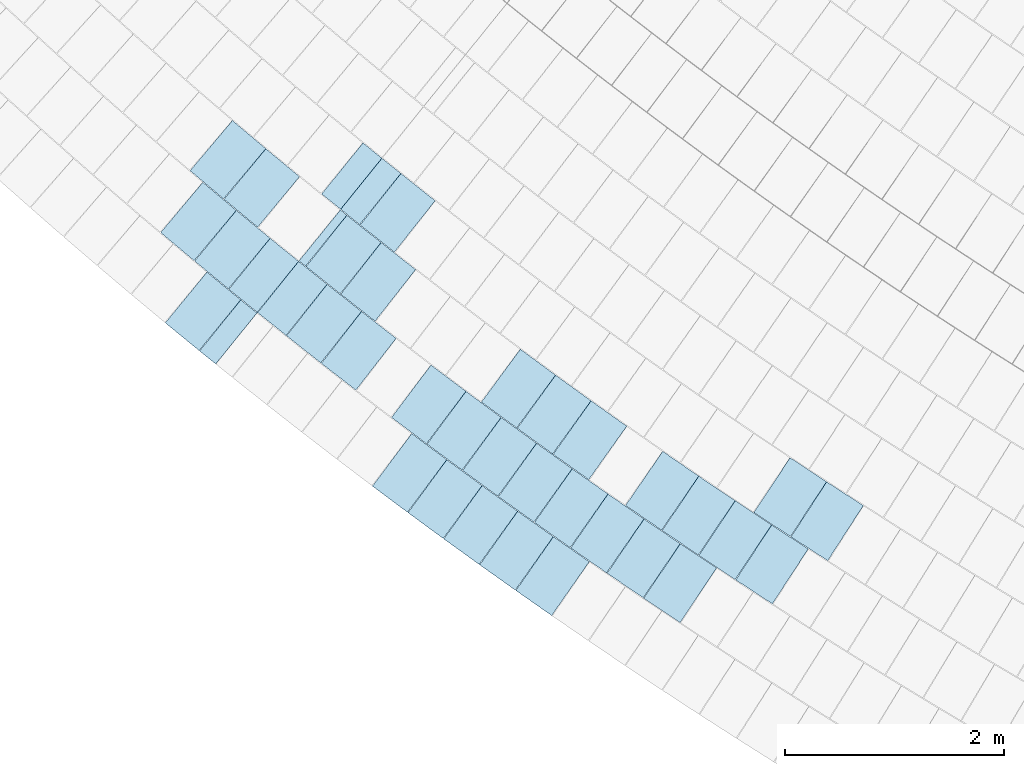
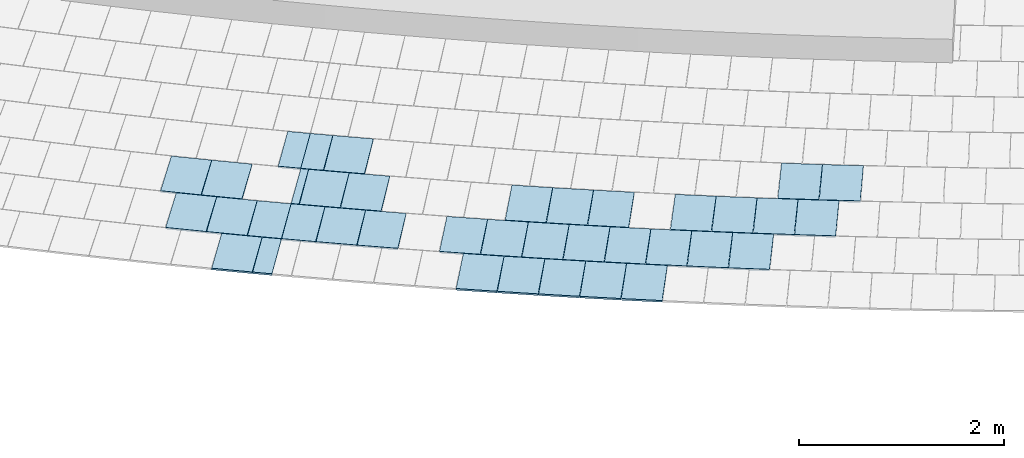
# One storey, part 93 of 438: 38 slabs.
"""IFC2X3 building model written with IfcOpenShell, lengths in millimetres."""

from ifc_helpers import new_model, entity, si_unit, converted_unit, derived_unit, direction, frame, origin, origin_2d_with_axis, place, context, subcontext, project, spatial, polyline, rectangle, outline, extrude, material, layer, layer_set, layer_usage, type_object, element, save


model = new_model("IFC2X3")

# Units and contexts
model_context = context("Model", 3, precision=0.01, world=origin(), true_north=direction((6.123031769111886e-17, 1.0)))
body_context = subcontext(model_context, "Body", "Model", "MODEL_VIEW")
ifc_project = project(units=[si_unit("LENGTHUNIT", "METRE", prefix="MILLI"), si_unit("AREAUNIT", "SQUARE_METRE"), si_unit("VOLUMEUNIT", "CUBIC_METRE"), converted_unit("PLANEANGLEUNIT", "DEGREE", entity("IfcRatioMeasure", 0.017453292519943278), si_unit("PLANEANGLEUNIT", "RADIAN"), dimensions=[0, 0, 0, 0, 0, 0, 0]), si_unit("MASSUNIT", "GRAM", prefix="KILO"), derived_unit("MASSDENSITYUNIT", [(si_unit("MASSUNIT", "GRAM", prefix="KILO"), 1), (si_unit("LENGTHUNIT", "METRE"), -3)]), derived_unit("MOMENTOFINERTIAUNIT", [(si_unit("LENGTHUNIT", "METRE"), 4)]), si_unit("TIMEUNIT", "SECOND"), si_unit("FREQUENCYUNIT", "HERTZ"), si_unit("THERMODYNAMICTEMPERATUREUNIT", "DEGREE_CELSIUS"), derived_unit("THERMALTRANSMITTANCEUNIT", [(si_unit("MASSUNIT", "GRAM", prefix="KILO"), 1), (si_unit("THERMODYNAMICTEMPERATUREUNIT", "KELVIN"), -1), (si_unit("TIMEUNIT", "SECOND"), -3)]), derived_unit("THERMALCONDUCTANCEUNIT", [(si_unit("MASSUNIT", "GRAM", prefix="KILO"), 1), (si_unit("LENGTHUNIT", "METRE"), 1), (si_unit("THERMODYNAMICTEMPERATUREUNIT", "KELVIN"), -1), (si_unit("TIMEUNIT", "SECOND"), -3)]), derived_unit("VOLUMETRICFLOWRATEUNIT", [(si_unit("LENGTHUNIT", "METRE"), 3), (si_unit("TIMEUNIT", "SECOND"), -1)]), derived_unit("MASSFLOWRATEUNIT", [(si_unit("MASSUNIT", "GRAM", prefix="KILO"), 1), (si_unit("TIMEUNIT", "SECOND"), -1)]), derived_unit("ROTATIONALFREQUENCYUNIT", [(si_unit("TIMEUNIT", "SECOND"), -1)]), si_unit("ELECTRICCURRENTUNIT", "AMPERE"), si_unit("ELECTRICVOLTAGEUNIT", "VOLT"), si_unit("POWERUNIT", "WATT"), converted_unit("FORCEUNIT", "KIP", entity("IfcRatioMeasure", 2.088543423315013e-05), si_unit("FORCEUNIT", "NEWTON"), dimensions=[1, 1, -2, 0, 0, 0, 0]), si_unit("ILLUMINANCEUNIT", "LUX"), si_unit("LUMINOUSFLUXUNIT", "LUMEN"), si_unit("LUMINOUSINTENSITYUNIT", "CANDELA"), derived_unit("USERDEFINED", [(si_unit("MASSUNIT", "GRAM", prefix="KILO"), -1), (si_unit("LENGTHUNIT", "METRE"), -2), (si_unit("TIMEUNIT", "SECOND"), 3), (si_unit("LUMINOUSFLUXUNIT", "LUMEN"), 1)]), derived_unit("USERDEFINED", [(si_unit("MASSUNIT", "GRAM", prefix="KILO"), 1), (si_unit("LENGTHUNIT", "METRE"), 3), (si_unit("TIMEUNIT", "SECOND"), -3), (si_unit("ELECTRICCURRENTUNIT", "AMPERE"), -2)]), derived_unit("USERDEFINED", [(si_unit("LENGTHUNIT", "METRE"), 2), (si_unit("TIMEUNIT", "SECOND"), -2)]), derived_unit("SOUNDPOWERUNIT", [(si_unit("MASSUNIT", "GRAM", prefix="KILO"), 1), (si_unit("LENGTHUNIT", "METRE"), 2), (si_unit("TIMEUNIT", "SECOND"), -3)]), derived_unit("SOUNDPRESSUREUNIT", [(si_unit("MASSUNIT", "GRAM", prefix="KILO"), 1), (si_unit("LENGTHUNIT", "METRE"), -1), (si_unit("TIMEUNIT", "SECOND"), -2)]), derived_unit("LINEARVELOCITYUNIT", [(si_unit("LENGTHUNIT", "METRE"), 1), (si_unit("TIMEUNIT", "SECOND"), -1)]), si_unit("PRESSUREUNIT", "PASCAL"), derived_unit("USERDEFINED", [(si_unit("LENGTHUNIT", "METRE"), -2), (si_unit("MASSUNIT", "GRAM", prefix="KILO"), 1), (si_unit("TIMEUNIT", "SECOND"), -2)]), derived_unit("LINEARFORCEUNIT", [(si_unit("MASSUNIT", "GRAM", prefix="KILO"), 1), (si_unit("LENGTHUNIT", "METRE"), 1), (si_unit("TIMEUNIT", "SECOND"), -2), (si_unit("LENGTHUNIT", "METRE"), -1)]), derived_unit("PLANARFORCEUNIT", [(si_unit("MASSUNIT", "GRAM", prefix="KILO"), 1), (si_unit("LENGTHUNIT", "METRE"), 1), (si_unit("TIMEUNIT", "SECOND"), -2), (si_unit("LENGTHUNIT", "METRE"), -2)]), derived_unit("SPECIFICHEATCAPACITYUNIT", [(si_unit("LENGTHUNIT", "METRE"), 2), (si_unit("TIMEUNIT", "SECOND"), -2), (si_unit("THERMODYNAMICTEMPERATUREUNIT", "KELVIN"), -1)]), derived_unit("VAPORPERMEABILITYUNIT", [(si_unit("TIMEUNIT", "SECOND"), 1), (si_unit("LENGTHUNIT", "METRE"), -1)]), derived_unit("DYNAMICVISCOSITYUNIT", [(si_unit("MASSUNIT", "GRAM", prefix="KILO"), 1), (si_unit("LENGTHUNIT", "METRE"), -1), (si_unit("TIMEUNIT", "SECOND"), -1)]), derived_unit("THERMALEXPANSIONCOEFFICIENTUNIT", [(si_unit("THERMODYNAMICTEMPERATUREUNIT", "KELVIN"), -1)])], contexts=[model_context])

# Site, building, storey
site_placement = place(None, frame((0.0, 0.0, 0.0), z_axis=(0.0, 0.0, 1.0), x_axis=(0.8191520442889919, 0.5735764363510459, 0.0)))
site = spatial("IfcSite", under=ifc_project, at=site_placement, Name="Default", CompositionType="ELEMENT")
building_placement = place(site_placement, origin())
building = spatial("IfcBuilding", under=site, at=building_placement, CompositionType="ELEMENT")
storey_placement = place(building_placement, origin())
storey = spatial("IfcBuildingStorey", under=building, at=storey_placement, Name="PLAN", CompositionType="ELEMENT", Elevation=0.0)

# Slabs
ifc_material = material(Name="Paint-01")
ifc_layer = layer(ifc_material, 20.00000000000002)
ifc_layer_set = layer_set([ifc_layer], Name="Floor:Slab-179:1000")
ifc_layer_usage = layer_usage(ifc_layer_set, "AXIS3", "POSITIVE", 0.0)
slab_type = type_object("IfcSlabType", Name="Floor:Slab-179:1000", PredefinedType="FLOOR", material=ifc_layer_set)
slab_1_placement = place(storey_placement, origin())
element("IfcSlab", 1, at=slab_1_placement, inside=storey, type_object=slab_type, material=ifc_layer_usage, Name="Floor:Slab-179:1000", ObjectType="Floor:Slab-179:1000", PredefinedType="FLOOR", context=body_context, shape_type="SweptSolid", body=[
    extrude(outline(polyline([(-200.00000134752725, -299.99999869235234), (200.0000045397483, -299.9999986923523), (200.0000013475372, 299.99999869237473), (-200.00000453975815, 299.99999869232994), (-200.00000134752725, -299.99999869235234)])), frame((-88387.58435162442, -86550.87937000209, 520.0), z_axis=(0.0, 0.0, -1.0), x_axis=(0.3609484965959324, -0.9325857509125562, 0.0)), (0.0, 0.0, 1.0), 19.99999999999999),
])
slab_2_placement = place(storey_placement, origin())
element("IfcSlab", 2, at=slab_2_placement, inside=storey, type_object=slab_type, material=ifc_layer_usage, Name="Floor:Slab-179:1000", ObjectType="Floor:Slab-179:1000", PredefinedType="FLOOR", context=body_context, shape_type="SweptSolid", body=[
    extrude(outline(polyline([(-200.00000134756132, -299.99999869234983), (200.00000453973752, -299.99999869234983), (200.0000013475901, 299.9999986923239), (-200.00000453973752, 299.99999869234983), (-200.00000134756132, -299.99999869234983)])), frame((-87751.2486828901, -86517.77100716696, 520.0), z_axis=(0.0, 0.0, -1.0), x_axis=(0.3645857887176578, -0.9311698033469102, 0.0)), (0.0, 0.0, 1.0), 20.000000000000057),
])
slab_3_placement = place(storey_placement, origin())
element("IfcSlab", 3, at=slab_3_placement, inside=storey, type_object=slab_type, material=ifc_layer_usage, Name="Floor:Slab-179:1000", ObjectType="Floor:Slab-179:1000", PredefinedType="FLOOR", context=body_context, shape_type="SweptSolid", body=[
    extrude(outline(polyline([(-200.00000134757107, -299.9999986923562), (200.00000453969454, -299.9999986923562), (200.00000134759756, 299.999998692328), (-200.0000045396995, 299.99999869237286), (-200.00000134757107, -299.9999986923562)])), frame((-88561.47088173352, -82302.85135048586, 520.0), z_axis=(0.0, 0.0, -1.0), x_axis=(0.28522268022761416, -0.9584612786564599, 0.0)), (0.0, 0.0, 1.0), 20.000000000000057),
])
slab_4_placement = place(storey_placement, origin())
element("IfcSlab", 4, at=slab_4_placement, inside=storey, type_object=slab_type, material=ifc_layer_usage, Name="Floor:Slab-179:1000", ObjectType="Floor:Slab-179:1000", PredefinedType="FLOOR", context=body_context, shape_type="SweptSolid", body=[
    extrude(outline(polyline([(-299.9999986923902, -111.39281443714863), (299.99999869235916, -111.39281443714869), (299.9999986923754, 111.39281603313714), (-299.99999869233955, 111.39281284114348), (-299.9999986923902, -111.39281443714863)])), frame((-88650.10748137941, -82001.84116092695, 520.0), z_axis=(0.0, 0.0, -1.0), x_axis=(0.9607110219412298, 0.2775505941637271, 0.0)), (0.0, 0.0, 1.0), 20.000000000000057),
])
slab_5_placement = place(storey_placement, origin())
element("IfcSlab", 5, at=slab_5_placement, inside=storey, type_object=slab_type, material=ifc_layer_usage, Name="Floor:Slab-179:1000", ObjectType="Floor:Slab-179:1000", PredefinedType="FLOOR", context=body_context, shape_type="SweptSolid", body=[
    extrude(outline(polyline([(-200.00000453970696, -299.9999986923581), (200.00000134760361, -299.9999986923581), (200.00000453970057, 299.9999986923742), (-200.00000134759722, 299.999998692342), (-200.00000453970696, -299.9999986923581)])), frame((-87114.1626661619, -86484.39918946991, 520.0), z_axis=(0.0, 0.0, -1.0), x_axis=(0.36830528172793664, -0.9297049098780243, 0.0)), (0.0, 0.0, 1.0), 20.000000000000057),
])
slab_6_placement = place(storey_placement, origin())
element("IfcSlab", 6, at=slab_6_placement, inside=storey, type_object=slab_type, material=ifc_layer_usage, Name="Floor:Slab-179:1000", ObjectType="Floor:Slab-179:1000", PredefinedType="FLOOR", context=body_context, shape_type="SweptSolid", body=[
    extrude(outline(polyline([(-200.00000453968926, -299.99999869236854), (200.00000134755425, -299.9999986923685), (200.00000453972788, 299.99999869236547), (-200.00000134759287, 299.9999986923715), (-200.00000453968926, -299.99999869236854)])), frame((-86964.46398859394, -86857.91267628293, 520.0), z_axis=(0.0, 0.0, -1.0), x_axis=(0.3757265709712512, -0.9267305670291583, 0.0)), (0.0, 0.0, 1.0), 20.000000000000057),
])
slab_7_placement = place(storey_placement, origin())
element("IfcSlab", 7, at=slab_7_placement, inside=storey, type_object=slab_type, material=ifc_layer_usage, Name="Floor:Slab-179:1000", ObjectType="Floor:Slab-179:1000", PredefinedType="FLOOR", context=body_context, shape_type="SweptSolid", body=[
    extrude(outline(polyline([(-200.0000013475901, -299.99999869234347), (200.00000453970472, -299.99999869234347), (200.00000134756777, 299.9999986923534), (-200.0000045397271, 299.9999986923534), (-200.0000013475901, -299.99999869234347)])), frame((-87896.46486159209, -86142.52271788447, 520.0), z_axis=(0.0, 0.0, -1.0), x_axis=(0.3572185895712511, -0.9340208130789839, 0.0)), (0.0, 0.0, 1.0), 20.000000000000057),
])
slab_8_placement = place(storey_placement, origin())
element("IfcSlab", 8, at=slab_8_placement, inside=storey, type_object=slab_type, material=ifc_layer_usage, Name="Floor:Slab-179:1000", ObjectType="Floor:Slab-179:1000", PredefinedType="FLOOR", context=body_context, shape_type="SweptSolid", body=[
    extrude(outline(polyline([(-200.0000013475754, -299.99999869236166), (200.0000045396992, -299.9999986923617), (200.0000013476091, 299.9999986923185), (-200.0000045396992, 299.9999986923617), (-200.0000013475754, -299.99999869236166)])), frame((-88314.26513219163, -85010.05926582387, 520.0), z_axis=(0.0, 0.0, -1.0), x_axis=(0.3349850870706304, -0.9422234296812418, 0.0)), (0.0, 0.0, 1.0), 20.000000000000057),
])
slab_9_placement = place(storey_placement, origin())
element("IfcSlab", 9, at=slab_9_placement, inside=storey, type_object=slab_type, material=ifc_layer_usage, Name="Floor:Slab-179:1000", ObjectType="Floor:Slab-179:1000", PredefinedType="FLOOR", context=body_context, shape_type="SweptSolid", body=[
    extrude(outline(polyline([(-200.0000013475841, -299.99999869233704), (200.00000453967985, -299.9999986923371), (200.00000134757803, 299.99999869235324), (-200.00000453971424, 299.9999986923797), (-200.0000013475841, -299.99999869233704)])), frame((-88038.71221626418, -85766.13899446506, 520.0), z_axis=(0.0, 0.0, -1.0), x_axis=(0.34982909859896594, -0.9368135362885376, 0.0)), (0.0, 0.0, 1.0), 19.999999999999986),
])
slab_10_placement = place(storey_placement, origin())
element("IfcSlab", 10, at=slab_10_placement, inside=storey, type_object=slab_type, material=ifc_layer_usage, Name="Floor:Slab-179:1000", ObjectType="Floor:Slab-179:1000", PredefinedType="FLOOR", context=body_context, shape_type="SweptSolid", body=[
    extrude(outline(polyline([(-200.000001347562, -299.99999869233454), (200.000004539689, -299.99999869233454), (200.0000013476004, 299.99999869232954), (-200.00000453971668, 299.9999986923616), (-200.000001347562, -299.99999869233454)])), frame((-88447.55349787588, -84630.4104429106, 520.0), z_axis=(0.0, 0.0, -1.0), x_axis=(0.3275314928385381, -0.9448402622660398, 0.0)), (0.0, 0.0, 1.0), 20.000000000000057),
])
slab_11_placement = place(storey_placement, origin())
element("IfcSlab", 11, at=slab_11_placement, inside=storey, type_object=slab_type, material=ifc_layer_usage, Name="Floor:Slab-179:1000", ObjectType="Floor:Slab-179:1000", PredefinedType="FLOOR", context=body_context, shape_type="SweptSolid", body=[
    extrude(outline(polyline([(-200.00000134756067, -299.999998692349), (200.0000045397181, -299.999998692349), (200.0000013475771, 299.9999986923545), (-200.00000453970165, 299.9999986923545), (-200.00000134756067, -299.999998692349)])), frame((-88577.83864946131, -84249.72054753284, 520.0), z_axis=(0.0, 0.0, -1.0), x_axis=(0.32005745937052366, -0.9473981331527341, 0.0)), (0.0, 0.0, 1.0), 19.999999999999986),
])
slab_12_placement = place(storey_placement, origin())
element("IfcSlab", 12, at=slab_12_placement, inside=storey, type_object=slab_type, material=ifc_layer_usage, Name="Floor:Slab-179:1000", ObjectType="Floor:Slab-179:1000", PredefinedType="FLOOR", context=body_context, shape_type="SweptSolid", body=[
    extrude(outline(polyline([(-200.0000013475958, -299.9999986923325), (200.00000453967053, -299.99999869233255), (200.0000013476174, 299.99999869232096), (-200.00000453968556, 299.9999986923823), (-200.0000013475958, -299.9999986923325)])), frame((-89068.7873305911, -82717.02631525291, 520.0), z_axis=(0.0, 0.0, -1.0), x_axis=(0.28996627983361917, -0.9570368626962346, 0.0)), (0.0, 0.0, 1.0), 20.000000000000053),
])
slab_13_placement = place(storey_placement, origin())
element("IfcSlab", 13, at=slab_13_placement, inside=storey, type_object=slab_type, material=ifc_layer_usage, Name="Floor:Slab-179:1000", ObjectType="Floor:Slab-179:1000", PredefinedType="FLOOR", context=body_context, shape_type="SweptSolid", body=[
    extrude(outline(polyline([(-299.999998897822, -38.625114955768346), (299.9999984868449, -38.625114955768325), (299.999998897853, 38.62511495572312), (-299.99999848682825, 38.62511495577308), (-299.999998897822, -38.625114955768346)])), frame((-89251.69247639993, -82100.21508952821, 520.0), z_axis=(0.0, 0.0, -1.0), x_axis=(0.9614984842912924, 0.2748102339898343, 0.0)), (0.0, 0.0, 1.0), 20.000000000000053),
])
slab_14_placement = place(storey_placement, origin())
element("IfcSlab", 14, at=slab_14_placement, inside=storey, type_object=slab_type, material=ifc_layer_usage, Name="Floor:Slab-179:1000", ObjectType="Floor:Slab-179:1000", PredefinedType="FLOOR", context=body_context, shape_type="SweptSolid", body=[
    extrude(outline(polyline([(-200.00000134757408, -299.9999986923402), (200.0000045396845, -299.9999986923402), (200.00000134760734, 299.99999869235), (-200.00000453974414, 299.9999986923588), (-200.00000134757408, -299.9999986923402)])), frame((-89183.93822295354, -82331.48865281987, 520.0), z_axis=(0.0, 0.0, -1.0), x_axis=(0.2823970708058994, -0.9592976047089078, 0.0)), (0.0, 0.0, 1.0), 20.000000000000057),
])
slab_15_placement = place(storey_placement, origin())
element("IfcSlab", 15, at=slab_15_placement, inside=storey, type_object=slab_type, material=ifc_layer_usage, Name="Floor:Slab-179:1000", ObjectType="Floor:Slab-179:1000", PredefinedType="FLOOR", context=body_context, shape_type="SweptSolid", body=[
    extrude(outline(polyline([(-200.00000453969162, -299.9999986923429), (200.00000134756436, -299.9999986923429), (200.00000453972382, 299.99999869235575), (-200.00000134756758, 299.99999869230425), (-200.00000453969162, -299.9999986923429)])), frame((-87603.07274221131, -86891.86044536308, 520.0), z_axis=(0.0, 0.0, -1.0), x_axis=(0.37193022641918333, -0.9282606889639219, 0.0)), (0.0, 0.0, 1.0), 19.99999999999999),
])
slab_16_placement = place(storey_placement, origin())
element("IfcSlab", 16, at=slab_16_placement, inside=storey, type_object=slab_type, material=ifc_layer_usage, Name="Floor:Slab-179:1000", ObjectType="Floor:Slab-179:1000", PredefinedType="FLOOR", context=body_context, shape_type="SweptSolid", body=[
    extrude(outline(polyline([(-200.0000013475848, -299.99999869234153), (200.0000045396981, -299.9999986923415), (200.0000013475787, 299.99999869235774), (-200.00000453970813, 299.9999986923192), (-200.0000013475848, -299.99999869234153)])), frame((-88531.34232037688, -86175.09990557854, 520.0), z_axis=(0.0, 0.0, -1.0), x_axis=(0.3536574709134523, -0.9353750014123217, 0.0)), (0.0, 0.0, 1.0), 20.000000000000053),
])
slab_17_placement = place(storey_placement, origin())
element("IfcSlab", 17, at=slab_17_placement, inside=storey, type_object=slab_type, material=ifc_layer_usage, Name="Floor:Slab-179:1000", ObjectType="Floor:Slab-179:1000", PredefinedType="FLOOR", context=body_context, shape_type="SweptSolid", body=[
    extrude(outline(polyline([(-200.0000013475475, -299.99999869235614), (200.0000045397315, -299.99999869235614), (200.00000134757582, 299.9999986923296), (-200.00000453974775, 299.9999986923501), (-200.0000013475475, -299.99999869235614)])), frame((-88672.16246826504, -85798.209675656, 520.0), z_axis=(0.0, 0.0, -1.0), x_axis=(0.34634489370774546, -0.9381072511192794, 0.0)), (0.0, 0.0, 1.0), 19.999999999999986),
])
slab_18_placement = place(storey_placement, origin())
element("IfcSlab", 18, at=slab_18_placement, inside=storey, type_object=slab_type, material=ifc_layer_usage, Name="Floor:Slab-179:1000", ObjectType="Floor:Slab-179:1000", PredefinedType="FLOOR", context=body_context, shape_type="SweptSolid", body=[
    extrude(outline(polyline([(-200.00000134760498, -299.99999869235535), (200.0000045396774, -299.99999869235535), (200.00000134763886, 299.9999986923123), (-200.00000453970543, 299.999998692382), (-200.00000134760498, -299.99999869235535)])), frame((-88810.03621385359, -85420.23164753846, 520.0), z_axis=(0.0, 0.0, -1.0), x_axis=(0.3390112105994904, -0.9407823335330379, 0.0)), (0.0, 0.0, 1.0), 19.99999999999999),
])
slab_19_placement = place(storey_placement, origin())
element("IfcSlab", 19, at=slab_19_placement, inside=storey, type_object=slab_type, material=ifc_layer_usage, Name="Floor:Slab-179:1000", ObjectType="Floor:Slab-179:1000", PredefinedType="FLOOR", context=body_context, shape_type="SweptSolid", body=[
    extrude(outline(polyline([(-200.0000013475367, -299.9999986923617), (200.00000453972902, -299.9999986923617), (200.00000134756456, 299.99999869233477), (-200.0000045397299, 299.99999869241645), (-200.0000013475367, -299.9999986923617)])), frame((-88944.95515525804, -85041.18885481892, 520.0), z_axis=(0.0, 0.0, -1.0), x_axis=(0.3316568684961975, -0.9434000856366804, 0.0)), (0.0, 0.0, 1.0), 20.000000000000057),
])
slab_20_placement = place(storey_placement, origin())
element("IfcSlab", 20, at=slab_20_placement, inside=storey, type_object=slab_type, material=ifc_layer_usage, Name="Floor:Slab-179:1000", ObjectType="Floor:Slab-179:1000", PredefinedType="FLOOR", context=body_context, shape_type="SweptSolid", body=[
    extrude(outline(polyline([(-200.0000013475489, -299.99999869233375), (200.00000453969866, -299.99999869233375), (200.00000134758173, 299.99999869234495), (-200.0000045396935, 299.9999986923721), (-200.0000013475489, -299.99999869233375)])), frame((-89076.9110706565, -84661.10439597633, 520.0), z_axis=(0.0, 0.0, -1.0), x_axis=(0.3242823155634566, -0.9459603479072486, 0.0)), (0.0, 0.0, 1.0), 20.000000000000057),
])
slab_21_placement = place(storey_placement, origin())
element("IfcSlab", 21, at=slab_21_placement, inside=storey, type_object=slab_type, material=ifc_layer_usage, Name="Floor:Slab-179:1000", ObjectType="Floor:Slab-179:1000", PredefinedType="FLOOR", context=body_context, shape_type="SweptSolid", body=[
    extrude(outline(polyline([(-200.00000134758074, -299.9999986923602), (200.0000045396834, -299.9999986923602), (200.00000134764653, 299.9999986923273), (-200.0000045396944, 299.99999869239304), (-200.00000134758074, -299.9999986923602)])), frame((-89205.89591879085, -84280.0014329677, 520.0), z_axis=(0.0, 0.0, -1.0), x_axis=(0.31688800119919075, -0.9484629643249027, 0.0)), (0.0, 0.0, 1.0), 20.000000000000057),
])
slab_22_placement = place(storey_placement, origin())
element("IfcSlab", 22, at=slab_22_placement, inside=storey, type_object=slab_type, material=ifc_layer_usage, Name="Floor:Slab-179:1000", ObjectType="Floor:Slab-179:1000", PredefinedType="FLOOR", context=body_context, shape_type="SweptSolid", body=[
    extrude(outline(polyline([(-200.00000134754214, -299.99999869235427), (200.0000045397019, -299.99999869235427), (200.0000013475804, 299.99999869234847), (-200.00000453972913, 299.99999869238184), (-200.00000134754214, -299.99999869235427)])), frame((-89331.90183945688, -83897.90318981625, 520.0), z_axis=(0.0, 0.0, -1.0), x_axis=(0.309474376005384, -0.9509077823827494, 0.0)), (0.0, 0.0, 1.0), 19.999999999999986),
])
slab_23_placement = place(storey_placement, origin())
element("IfcSlab", 23, at=slab_23_placement, inside=storey, type_object=slab_type, material=ifc_layer_usage, Name="Floor:Slab-179:1000", ObjectType="Floor:Slab-179:1000", PredefinedType="FLOOR", context=body_context, shape_type="SweptSolid", body=[
    extrude(outline(polyline([(-200.00000134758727, -299.9999986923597), (200.00000453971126, -299.9999986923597), (200.00000134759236, 299.9999986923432), (-200.0000045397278, 299.99999869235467), (-200.00000134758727, -299.9999986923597)])), frame((-89574.94636569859, -83130.81406101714, 520.0), z_axis=(0.0, 0.0, -1.0), x_axis=(0.29459100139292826, -0.9556234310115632, 0.0)), (0.0, 0.0, 1.0), 19.999999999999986),
])
slab_24_placement = place(storey_placement, origin())
element("IfcSlab", 24, at=slab_24_placement, inside=storey, type_object=slab_type, material=ifc_layer_usage, Name="Floor:Slab-179:1000", ObjectType="Floor:Slab-179:1000", PredefinedType="FLOOR", context=body_context, shape_type="SweptSolid", body=[
    extrude(outline(polyline([(-200.00000134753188, -299.9999986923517), (200.000004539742, -299.9999986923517), (200.00000134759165, 299.9999986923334), (-200.00000453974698, 299.9999986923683), (-200.00000134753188, -299.9999986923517)])), frame((-89691.9701603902, -82745.86992099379, 520.0), z_axis=(0.0, 0.0, -1.0), x_axis=(0.2871221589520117, -0.9578939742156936, 0.0)), (0.0, 0.0, 1.0), 20.000000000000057),
])
slab_25_placement = place(storey_placement, origin())
element("IfcSlab", 25, at=slab_25_placement, inside=storey, type_object=slab_type, material=ifc_layer_usage, Name="Floor:Slab-179:1000", ObjectType="Floor:Slab-179:1000", PredefinedType="FLOOR", context=body_context, shape_type="SweptSolid", body=[
    extrude(outline(polyline([(-167.29426508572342, -299.9999986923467), (167.29426827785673, -299.9999986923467), (167.29426508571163, 299.9999986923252), (-167.29426827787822, 299.99999869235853), (-167.29426508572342, -299.9999986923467)])), frame((-89796.83971138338, -82391.42496756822, 520.0), z_axis=(0.0, 0.0, -1.0), x_axis=(0.2796358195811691, -0.9601061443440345, 0.0)), (0.0, 0.0, 1.0), 20.000000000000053),
])
slab_26_placement = place(storey_placement, origin())
element("IfcSlab", 26, at=slab_26_placement, inside=storey, type_object=slab_type, material=ifc_layer_usage, Name="Floor:Slab-179:1000", ObjectType="Floor:Slab-179:1000", PredefinedType="FLOOR", context=body_context, shape_type="SweptSolid", body=[
    extrude(outline(polyline([(-200.00000134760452, -299.9999986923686), (200.0000045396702, -299.9999986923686), (200.00000134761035, 299.9999986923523), (-200.0000045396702, 299.9999986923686), (-200.00000134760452, -299.9999986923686)])), frame((-89441.46024691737, -85451.61973932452, 520.0), z_axis=(0.0, 0.0, -1.0), x_axis=(0.33567985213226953, -0.9419761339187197, 0.0)), (0.0, 0.0, 1.0), 20.000000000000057),
])
slab_27_placement = place(storey_placement, origin())
element("IfcSlab", 27, at=slab_27_placement, inside=storey, type_object=slab_type, material=ifc_layer_usage, Name="Floor:Slab-179:1000", ObjectType="Floor:Slab-179:1000", PredefinedType="FLOOR", context=body_context, shape_type="SweptSolid", body=[
    extrude(outline(polyline([(-200.00000134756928, -299.9999986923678), (200.0000045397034, -299.9999986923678), (200.0000013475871, 299.99999869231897), (-200.0000045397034, 299.9999986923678), (-200.00000134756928, -299.9999986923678)])), frame((-89304.95143826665, -85830.06388562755, 520.0), z_axis=(0.0, 0.0, -1.0), x_axis=(0.34293738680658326, -0.9393582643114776, 0.0)), (0.0, 0.0, 1.0), 20.000000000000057),
])
slab_28_placement = place(storey_placement, origin())
element("IfcSlab", 28, at=slab_28_placement, inside=storey, type_object=slab_type, material=ifc_layer_usage, Name="Floor:Slab-179:1000", ObjectType="Floor:Slab-179:1000", PredefinedType="FLOOR", context=body_context, shape_type="SweptSolid", body=[
    extrude(outline(polyline([(-200.0000013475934, -299.9999986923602), (200.00000453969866, -299.9999986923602), (200.00000134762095, 299.99999869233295), (-200.00000453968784, 299.9999986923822), (-200.0000013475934, -299.9999986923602)])), frame((-89705.69841793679, -84691.62825160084, 520.0), z_axis=(0.0, 0.0, -1.0), x_axis=(0.32110527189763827, -0.947043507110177, 0.0)), (0.0, 0.0, 1.0), 19.999999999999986),
])
slab_29_placement = place(storey_placement, origin())
element("IfcSlab", 29, at=slab_29_placement, inside=storey, type_object=slab_type, material=ifc_layer_usage, Name="Floor:Slab-179:1000", ObjectType="Floor:Slab-179:1000", PredefinedType="FLOOR", context=body_context, shape_type="SweptSolid", body=[
    extrude(outline(polyline([(-200.0000013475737, -299.9999986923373), (200.00000453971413, -299.9999986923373), (200.0000013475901, 299.99999869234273), (-200.00000453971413, 299.9999986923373), (-200.0000013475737, -299.9999986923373)])), frame((-89833.4120515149, -84310.12614871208, 520.0), z_axis=(0.0, 0.0, -1.0), x_axis=(0.3137890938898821, -0.9494927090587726, 0.0)), (0.0, 0.0, 1.0), 20.000000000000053),
])
slab_30_placement = place(storey_placement, origin())
element("IfcSlab", 30, at=slab_30_placement, inside=storey, type_object=slab_type, material=ifc_layer_usage, Name="Floor:Slab-179:1000", ObjectType="Floor:Slab-179:1000", PredefinedType="FLOOR", context=body_context, shape_type="SweptSolid", body=[
    extrude(outline(polyline([(-200.0000013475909, -299.9999986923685), (200.00000453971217, -299.9999986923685), (200.00000134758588, 299.99999869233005), (-200.0000045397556, 299.99999869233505), (-200.0000013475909, -299.9999986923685)])), frame((-89575.04522402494, -85072.13366500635, 520.0), z_axis=(0.0, 0.0, -1.0), x_axis=(0.32840233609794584, -0.9445379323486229, 0.0)), (0.0, 0.0, 1.0), 20.000000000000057),
])
slab_31_placement = place(storey_placement, origin())
element("IfcSlab", 31, at=slab_31_placement, inside=storey, type_object=slab_type, material=ifc_layer_usage, Name="Floor:Slab-179:1000", ObjectType="Floor:Slab-179:1000", PredefinedType="FLOOR", context=body_context, shape_type="SweptSolid", body=[
    extrude(outline(polyline([(-111.3928168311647, -299.99999869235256), (111.39281363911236, -299.9999986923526), (111.392816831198, 299.99999869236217), (-111.39281363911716, 299.9999986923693), (-111.3928168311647, -299.99999869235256)])), frame((-88711.81215468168, -81787.89492620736, 520.0), z_axis=(0.0, 0.0, -1.0), x_axis=(0.27668286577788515, -0.9609612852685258, 0.0)), (0.0, 0.0, 1.0), 20.000000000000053),
])
slab_32_placement = place(storey_placement, origin())
element("IfcSlab", 32, at=slab_32_placement, inside=storey, type_object=slab_type, material=ifc_layer_usage, Name="Floor:Slab-179:1000", ObjectType="Floor:Slab-179:1000", PredefinedType="FLOOR", context=body_context, shape_type="SweptSolid", body=[
    extrude(outline(polyline([(-200.00000453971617, -299.9999986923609), (200.00000134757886, -299.9999986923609), (200.00000453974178, 299.9999986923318), (-200.0000013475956, 299.9999986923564), (-200.00000453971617, -299.9999986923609)])), frame((-89551.82264345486, -81017.02699630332, 520.0), z_axis=(0.0, 0.0, -1.0), x_axis=(0.2565904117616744, -0.9665202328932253, 0.0)), (0.0, 0.0, 1.0), 20.000000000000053),
])
slab_33_placement = place(storey_placement, origin())
element("IfcSlab", 33, at=slab_33_placement, inside=storey, type_object=slab_type, material=ifc_layer_usage, Name="Floor:Slab-179:1000", ObjectType="Floor:Slab-179:1000", PredefinedType="FLOOR", context=body_context, shape_type="SweptSolid", body=[
    extrude(outline(polyline([(-200.0000045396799, -299.99999869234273), (200.00000134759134, -299.99999869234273), (200.00000453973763, 299.99999869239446), (-200.00000134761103, 299.99999869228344), (-200.0000045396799, -299.99999869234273)])), frame((-89447.04392929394, -81405.51179423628, 520.0), z_axis=(0.0, 0.0, -1.0), x_axis=(0.2642174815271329, -0.9644631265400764, 0.0)), (0.0, 0.0, 1.0), 20.000000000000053),
])
slab_34_placement = place(storey_placement, origin())
element("IfcSlab", 34, at=slab_34_placement, inside=storey, type_object=slab_type, material=ifc_layer_usage, Name="Floor:Slab-179:1000", ObjectType="Floor:Slab-179:1000", PredefinedType="FLOOR", context=body_context, shape_type="SweptSolid", body=[
    extrude(rectangle(XDim=399.99989121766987, YDim=599.9998253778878, at=origin_2d_with_axis()), frame((-90096.0218070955, -81324.64008923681, 520.0), z_axis=(0.0, 0.0, -1.0), x_axis=(0.2588190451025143, -0.9659258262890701, 0.0)), (0.0, 0.0, 1.0), 20.000000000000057),
])
slab_35_placement = place(storey_placement, origin())
element("IfcSlab", 35, at=slab_35_placement, inside=storey, type_object=slab_type, material=ifc_layer_usage, Name="Floor:Slab-179:1000", ObjectType="Floor:Slab-179:1000", PredefinedType="FLOOR", context=body_context, shape_type="SweptSolid", body=[
    extrude(outline(polyline([(-167.2942682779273, -299.999998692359), (167.29426508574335, -299.99999869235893), (167.29426827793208, 299.9999986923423), (-167.29426508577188, 299.9999986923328), (-167.2942682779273, -299.999998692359)])), frame((-89889.88491926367, -82068.81290564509, 520.0), z_axis=(0.0, 0.0, -1.0), x_axis=(0.274595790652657, -0.9615597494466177, 0.0)), (0.0, 0.0, 1.0), 19.99999999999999),
])
slab_36_placement = place(storey_placement, origin())
element("IfcSlab", 36, at=slab_36_placement, inside=storey, type_object=slab_type, material=ifc_layer_usage, Name="Floor:Slab-179:1000", ObjectType="Floor:Slab-179:1000", PredefinedType="FLOOR", context=body_context, shape_type="SweptSolid", body=[
    extrude(outline(polyline([(-200.0000045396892, -299.9999986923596), (200.0000013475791, -299.9999986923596), (200.0000045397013, 299.9999986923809), (-200.00000134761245, 299.99999869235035), (-200.0000045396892, -299.9999986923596)])), frame((-89989.87374913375, -81712.96029340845, 520.0), z_axis=(0.0, 0.0, -1.0), x_axis=(0.2670812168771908, -0.9636740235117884, 0.0)), (0.0, 0.0, 1.0), 20.000000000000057),
])
slab_37_placement = place(storey_placement, origin())
element("IfcSlab", 37, at=slab_37_placement, inside=storey, type_object=slab_type, material=ifc_layer_usage, Name="Floor:Slab-179:1000", ObjectType="Floor:Slab-179:1000", PredefinedType="FLOOR", context=body_context, shape_type="SweptSolid", body=[
    extrude(outline(polyline([(-200.00000453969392, -299.9999986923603), (200.00000134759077, -299.9999986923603), (200.00000453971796, 299.999998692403), (-200.00000134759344, 299.9999986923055), (-200.00000453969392, -299.9999986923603)])), frame((-90532.2810887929, -82020.27016265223, 520.0), z_axis=(0.0, 0.0, -1.0), x_axis=(0.2698758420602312, -0.9628951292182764, 0.0)), (0.0, 0.0, 1.0), 20.000000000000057),
])
slab_38_placement = place(storey_placement, origin())
element("IfcSlab", 38, at=slab_38_placement, inside=storey, type_object=slab_type, material=ifc_layer_usage, Name="Floor:Slab-179:1000", ObjectType="Floor:Slab-179:1000", PredefinedType="FLOOR", context=body_context, shape_type="SweptSolid", body=[
    extrude(outline(polyline([(-95.1902453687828, -299.9999986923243), (95.1902421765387, -299.9999986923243), (95.19024536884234, 299.99999869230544), (-95.1902421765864, 299.99999869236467), (-95.1902453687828, -299.9999986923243)])), frame((-90451.27673375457, -82306.53275124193, 520.0), z_axis=(0.0, 0.0, -1.0), x_axis=(0.2772967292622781, -0.9607843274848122, 0.0)), (0.0, 0.0, 1.0), 20.000000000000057),
])

save(model, "model.ifc")
